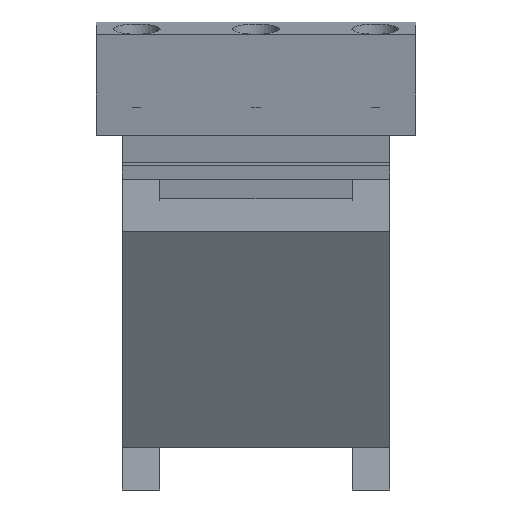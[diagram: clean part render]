
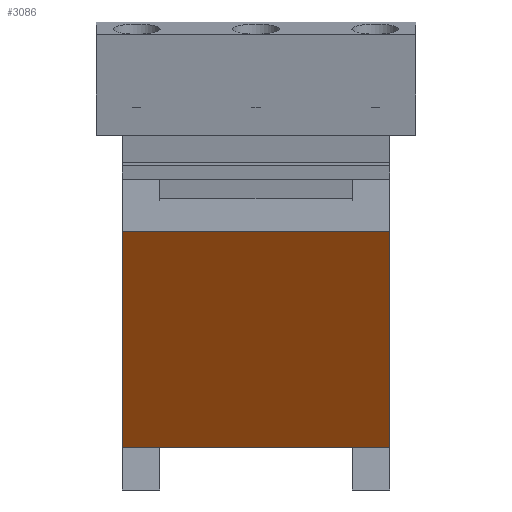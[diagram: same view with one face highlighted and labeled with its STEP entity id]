
A CAD part, left-side view. The second image highlights one B-rep face of the part: STEP entity #3086.
In plain terms, the highlighted planar face has unit normal (-0.809, 0, -0.588).
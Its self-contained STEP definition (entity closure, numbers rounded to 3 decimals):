
#337 = PLANE('',#338);
#338 = AXIS2_PLACEMENT_3D('',#339,#340,#341);
#339 = CARTESIAN_POINT('',(22.478,5.7,-197.716));
#340 = DIRECTION('',(0.,1.,0.));
#341 = DIRECTION('',(-0.216,0.,0.976));
#391 = PLANE('',#392);
#392 = AXIS2_PLACEMENT_3D('',#393,#394,#395);
#393 = CARTESIAN_POINT('',(22.478,62.7,-197.716));
#394 = DIRECTION('',(0.,1.,0.));
#395 = DIRECTION('',(-0.216,0.,0.976));
#1184 = VERTEX_POINT('',#1185);
#1185 = CARTESIAN_POINT('',(53.25,62.7,-246.));
#1199 = PLANE('',#1200);
#1200 = AXIS2_PLACEMENT_3D('',#1201,#1202,#1203);
#1201 = CARTESIAN_POINT('',(72.75,13.7,-246.));
#1202 = DIRECTION('',(-0.,-0.,-1.));
#1203 = DIRECTION('',(-1.,0.,0.));
#1211 = EDGE_CURVE('',#1184,#1212,#1214,.T.);
#1212 = VERTEX_POINT('',#1213);
#1213 = CARTESIAN_POINT('',(19.8,62.7,-200.));
#1214 = SURFACE_CURVE('',#1215,(#1219,#1226),.PCURVE_S1.);
#1215 = LINE('',#1216,#1217);
#1216 = CARTESIAN_POINT('',(53.25,62.7,-246.));
#1217 = VECTOR('',#1218,1.);
#1218 = DIRECTION('',(-0.588,0.,0.809));
#1219 = PCURVE('',#391,#1220);
#1220 = DEFINITIONAL_REPRESENTATION('',(#1221),#1225);
#1221 = LINE('',#1222,#1223);
#1222 = CARTESIAN_POINT('',(-53.8,19.592));
#1223 = VECTOR('',#1224,1.);
#1224 = DIRECTION('',(0.917,-0.399));
#1225 = ( GEOMETRIC_REPRESENTATION_CONTEXT(2) 
PARAMETRIC_REPRESENTATION_CONTEXT() REPRESENTATION_CONTEXT('2D SPACE',''
  ) );
#1226 = PCURVE('',#1227,#1232);
#1227 = PLANE('',#1228);
#1228 = AXIS2_PLACEMENT_3D('',#1229,#1230,#1231);
#1229 = CARTESIAN_POINT('',(53.25,13.7,-246.));
#1230 = DIRECTION('',(-0.809,-0.,-0.588));
#1231 = DIRECTION('',(-0.588,0.,0.809));
#1232 = DEFINITIONAL_REPRESENTATION('',(#1233),#1237);
#1233 = LINE('',#1234,#1235);
#1234 = CARTESIAN_POINT('',(0.,49.));
#1235 = VECTOR('',#1236,1.);
#1236 = DIRECTION('',(1.,0.));
#1237 = ( GEOMETRIC_REPRESENTATION_CONTEXT(2) 
PARAMETRIC_REPRESENTATION_CONTEXT() REPRESENTATION_CONTEXT('2D SPACE',''
  ) );
#1255 = PLANE('',#1256);
#1256 = AXIS2_PLACEMENT_3D('',#1257,#1258,#1259);
#1257 = CARTESIAN_POINT('',(19.8,13.7,-200.));
#1258 = DIRECTION('',(-1.,0.,0.));
#1259 = DIRECTION('',(0.,0.,1.));
#1883 = VERTEX_POINT('',#1884);
#1884 = CARTESIAN_POINT('',(53.25,5.7,-246.));
#1905 = EDGE_CURVE('',#1883,#1906,#1908,.T.);
#1906 = VERTEX_POINT('',#1907);
#1907 = CARTESIAN_POINT('',(19.8,5.7,-200.));
#1908 = SURFACE_CURVE('',#1909,(#1913,#1920),.PCURVE_S1.);
#1909 = LINE('',#1910,#1911);
#1910 = CARTESIAN_POINT('',(53.25,5.7,-246.));
#1911 = VECTOR('',#1912,1.);
#1912 = DIRECTION('',(-0.588,0.,0.809));
#1913 = PCURVE('',#337,#1914);
#1914 = DEFINITIONAL_REPRESENTATION('',(#1915),#1919);
#1915 = LINE('',#1916,#1917);
#1916 = CARTESIAN_POINT('',(-53.8,19.592));
#1917 = VECTOR('',#1918,1.);
#1918 = DIRECTION('',(0.917,-0.399));
#1919 = ( GEOMETRIC_REPRESENTATION_CONTEXT(2) 
PARAMETRIC_REPRESENTATION_CONTEXT() REPRESENTATION_CONTEXT('2D SPACE',''
  ) );
#1920 = PCURVE('',#1227,#1921);
#1921 = DEFINITIONAL_REPRESENTATION('',(#1922),#1926);
#1922 = LINE('',#1923,#1924);
#1923 = CARTESIAN_POINT('',(0.,-8.));
#1924 = VECTOR('',#1925,1.);
#1925 = DIRECTION('',(1.,0.));
#1926 = ( GEOMETRIC_REPRESENTATION_CONTEXT(2) 
PARAMETRIC_REPRESENTATION_CONTEXT() REPRESENTATION_CONTEXT('2D SPACE',''
  ) );
#3015 = EDGE_CURVE('',#1212,#1906,#3016,.T.);
#3016 = SURFACE_CURVE('',#3017,(#3021,#3028),.PCURVE_S1.);
#3017 = LINE('',#3018,#3019);
#3018 = CARTESIAN_POINT('',(19.8,62.7,-200.));
#3019 = VECTOR('',#3020,1.);
#3020 = DIRECTION('',(0.,-1.,0.));
#3021 = PCURVE('',#1255,#3022);
#3022 = DEFINITIONAL_REPRESENTATION('',(#3023),#3027);
#3023 = LINE('',#3024,#3025);
#3024 = CARTESIAN_POINT('',(0.,49.));
#3025 = VECTOR('',#3026,1.);
#3026 = DIRECTION('',(0.,-1.));
#3027 = ( GEOMETRIC_REPRESENTATION_CONTEXT(2) 
PARAMETRIC_REPRESENTATION_CONTEXT() REPRESENTATION_CONTEXT('2D SPACE',''
  ) );
#3028 = PCURVE('',#1227,#3029);
#3029 = DEFINITIONAL_REPRESENTATION('',(#3030),#3034);
#3030 = LINE('',#3031,#3032);
#3031 = CARTESIAN_POINT('',(56.876,49.));
#3032 = VECTOR('',#3033,1.);
#3033 = DIRECTION('',(0.,-1.));
#3034 = ( GEOMETRIC_REPRESENTATION_CONTEXT(2) 
PARAMETRIC_REPRESENTATION_CONTEXT() REPRESENTATION_CONTEXT('2D SPACE',''
  ) );
#3086 = ADVANCED_FACE('',(#3087),#1227,.T.);
#3087 = FACE_BOUND('',#3088,.T.);
#3088 = EDGE_LOOP('',(#3089,#3090,#3091,#3092));
#3089 = ORIENTED_EDGE('',*,*,#1905,.T.);
#3090 = ORIENTED_EDGE('',*,*,#3015,.F.);
#3091 = ORIENTED_EDGE('',*,*,#1211,.F.);
#3092 = ORIENTED_EDGE('',*,*,#3093,.T.);
#3093 = EDGE_CURVE('',#1184,#1883,#3094,.T.);
#3094 = SURFACE_CURVE('',#3095,(#3099,#3106),.PCURVE_S1.);
#3095 = LINE('',#3096,#3097);
#3096 = CARTESIAN_POINT('',(53.25,62.7,-246.));
#3097 = VECTOR('',#3098,1.);
#3098 = DIRECTION('',(0.,-1.,0.));
#3099 = PCURVE('',#1227,#3100);
#3100 = DEFINITIONAL_REPRESENTATION('',(#3101),#3105);
#3101 = LINE('',#3102,#3103);
#3102 = CARTESIAN_POINT('',(0.,49.));
#3103 = VECTOR('',#3104,1.);
#3104 = DIRECTION('',(0.,-1.));
#3105 = ( GEOMETRIC_REPRESENTATION_CONTEXT(2) 
PARAMETRIC_REPRESENTATION_CONTEXT() REPRESENTATION_CONTEXT('2D SPACE',''
  ) );
#3106 = PCURVE('',#1199,#3107);
#3107 = DEFINITIONAL_REPRESENTATION('',(#3108),#3112);
#3108 = LINE('',#3109,#3110);
#3109 = CARTESIAN_POINT('',(19.5,49.));
#3110 = VECTOR('',#3111,1.);
#3111 = DIRECTION('',(0.,-1.));
#3112 = ( GEOMETRIC_REPRESENTATION_CONTEXT(2) 
PARAMETRIC_REPRESENTATION_CONTEXT() REPRESENTATION_CONTEXT('2D SPACE',''
  ) );
